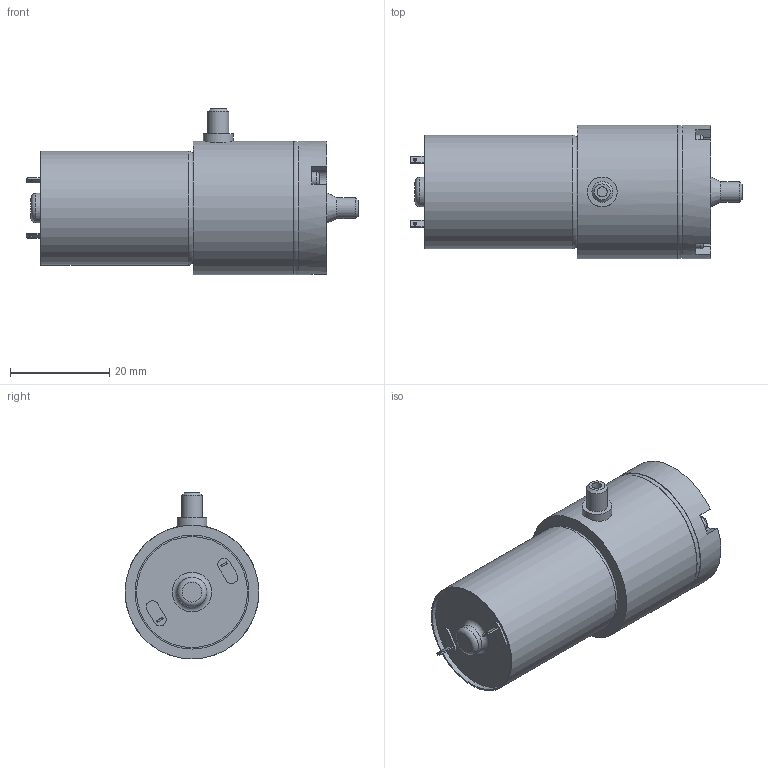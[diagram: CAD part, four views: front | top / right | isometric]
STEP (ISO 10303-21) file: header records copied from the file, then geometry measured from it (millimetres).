
FILE_DESCRIPTION(/* description */ ('STEP AP242','CAx-IF Rec.Pracs.---Representation and Presentation of Product Manufacturing Information (PMI)---4.0---2014-10-13','CAx-IF Rec.Pracs.---3D Tessellated Geometry---0.4---2014-09-14','2;1'),/* implementation_level */ '2;1');
FILE_NAME(/* name */ '6325f9bc38a863356d516321',/* time_stamp */ '2022-09-17T16:45:49+00:00',/* author */ (''),/* organization */ (''),/* preprocessor_version */ 'ST-DEVELOPER v18.102',/* originating_system */ ' ',/* authorisation */ ' ');
FILE_SCHEMA (('AP242_MANAGED_MODEL_BASED_3D_ENGINEERING_MIM_LF { 1 0 10303 442 1 1 4 }'));
Length unit declared in the file: metre
Products named in the file (1): Vacuum Pump 370A ftobler
Bounding box: 67 x 27 x 33.5 mm (x, y, z)
Volume: 27956.1 mm3; surface area: 6260.3 mm2
Topology: 1 solids, 1 shells, 124 faces, 315 edges, 210 vertices
Faces by surface type: plane 88, cylinder 26, torus 7, cone 3
Full cylindrical faces by diameter (mm): 0.7 x2, 2 x2, 3 x3, 4.2 x2, 6 x2, 22.4 x1, 23 x1, 27 x2
Entity records: 4272 total; most frequent: CARTESIAN_POINT 777, ORIENTED_EDGE 578, DIRECTION 566, EDGE_CURVE 289, VERTEX_POINT 209, AXIS2_PLACEMENT_3D 201, EDGE_LOOP 170, FACE_BOUND 170
